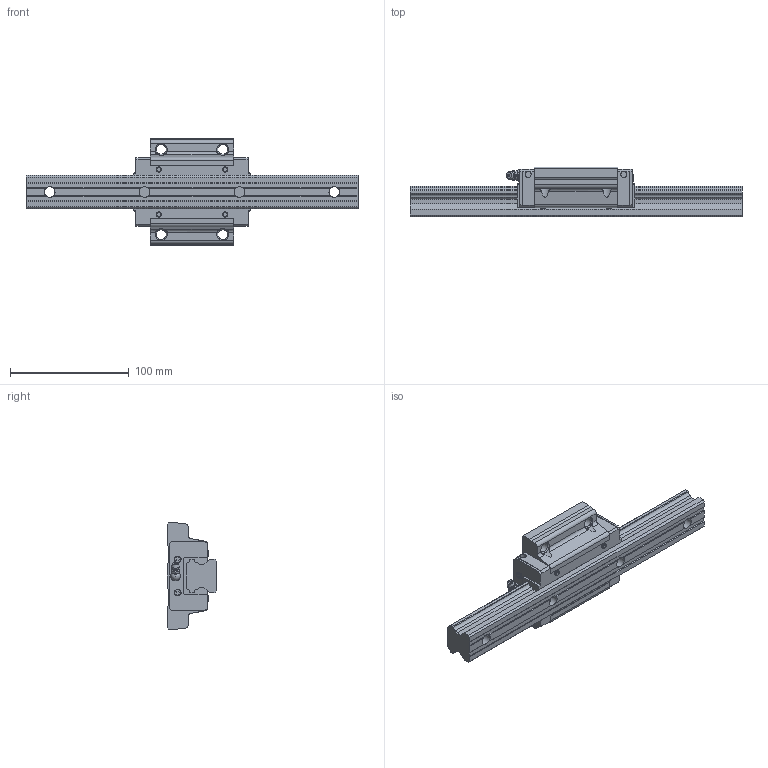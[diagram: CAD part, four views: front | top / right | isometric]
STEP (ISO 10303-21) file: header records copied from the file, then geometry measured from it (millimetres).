
FILE_DESCRIPTION(/* description */ ('STEP AP203'),/* implementation_level */ '2;1');
FILE_NAME(/* name */ 'HSR30M1A1SS-280L_G20_0_B-M6F_90-6_0_0_0_1',/* time_stamp */ '2024-05-23T06:09:17+02:00',/* author */ ('License CC BY-ND 4.0'),/* organization */ ('CADENAS'),/* preprocessor_version */ 'ST-DEVELOPER v19.3',/* originating_system */ 'PARTsolutions',/* authorisation */ ' ');
FILE_SCHEMA (('CONFIG_CONTROL_DESIGN'));
Length unit declared in the file: millimetre
Products named in the file (4): HSR30M1A1SS-280L_G20_0_B-M6F_90-6_0_0_0_1; HSR30M1A128020 Rail; HSR30M1ASSB-M6F1 Slider; hsr_ftht_B-M6F_grease_nipple_joint
Assembly tree (3 placements, depth 2):
  HSR30M1A1SS-280L_G20_0_B-M6F_90-6_0_0_0_1
    HSR30M1A128020 Rail
    HSR30M1ASSB-M6F1 Slider
    hsr_ftht_B-M6F_grease_nipple_joint
Bounding box: 280 x 42 x 90 mm (x, y, z)
Volume: 345138 mm3; surface area: 68212.1 mm2
Topology: 3 solids, 3 shells, 290 faces, 784 edges, 509 vertices
Faces by surface type: plane 206, cylinder 50, cone 21, torus 10, sphere 3
Full cylindrical faces by diameter (mm): 4.37 x4, 4.917 x2, 5.2 x4, 5.7 x4, 6 x1, 8 x1, 8.376 x4, 9 x4, 14 x4
Entity records: 8797 total; most frequent: CARTESIAN_POINT 1637, DIRECTION 1428, ORIENTED_EDGE 1420, EDGE_CURVE 710, LINE 516, VECTOR 516, VERTEX_POINT 493, AXIS2_PLACEMENT_3D 456
